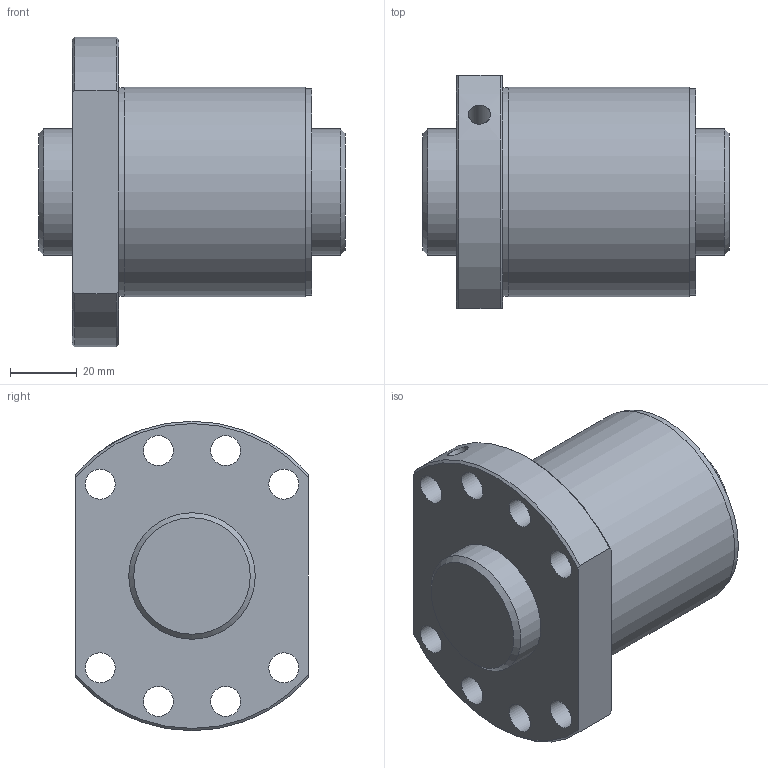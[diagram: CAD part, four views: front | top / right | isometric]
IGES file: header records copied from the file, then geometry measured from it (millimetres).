
Start section: Data from Parasolid IGES Translator 26.0.171, Copyright(c) 2006 Siemens PLM Software. All Rights Reserved.
Global section: file name: SDA3812V-5G0+92LC0(0G000).igs; native system: By Siemens PLM Incorporated; preprocessor: XPlus GENERIC/IGES 26.0.171; author: Noname; organization: Noname; date: 20240528.113335; units: millimetre
Bounding box: 92 x 70 x 93 mm (x, y, z)
Surface area: 49006.9 mm2 (no closed solid volume)
Topology: 0 solids, 0 shells, 33 faces, 158 edges, 133 vertices
Faces by surface type: revolution 24, extrusion 9
